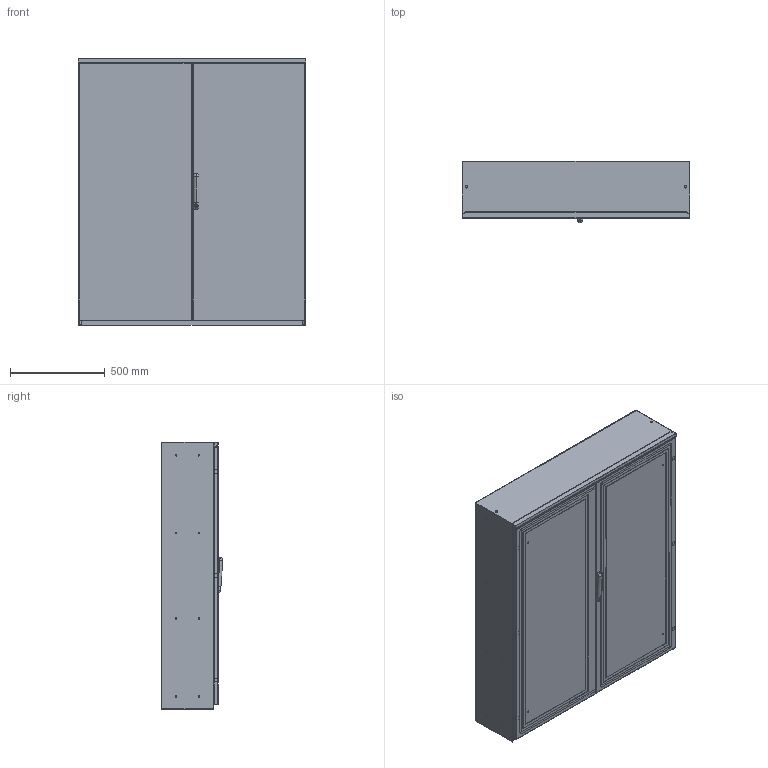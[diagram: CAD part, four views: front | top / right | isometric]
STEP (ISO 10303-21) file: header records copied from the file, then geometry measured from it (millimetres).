
FILE_DESCRIPTION (( 'STEP AP203' ), '1' );
FILE_NAME ('ECOMP12-1430X.STEP', '2021-03-16T07:39:07', ( '' ), ( '' ), 'SwSTEP 2.0', 'SolidWorks 2019', '' );
FILE_SCHEMA (( 'CONFIG_CONTROL_DESIGN' ));
Length unit declared in the file: millimetre
Products named in the file (11): AR_ECOMP_inox_assieme_maniglia; AR_ECOMP_inox_struttura_1200x1400x0300; AR_ECOMP_inox_piastra_interna_1200x1200; AR_ECOMP_inox_maniglia; AR_ECOMP_inox_inserto_maniglia_Doppia_aletta; AR_ECOMP_inox_montaggio_porta_IB_1.5_1200x1400_ANT_DX; ECOMP12-1430X; AR_ECOMP_inox_tegolino_0600x0100; AR_ECOMP_inox_tegolino_0600x0050; AR_ECOMP_inox_Porta_CB_1.5_1200x1400_ANT_DX; AR_ECOMP_inox_Porta_IB_1.5_1200x1400_ANT
Assembly tree (12 placements, depth 4):
  ECOMP12-1430X
    AR_ECOMP_inox_struttura_1200x1400x0300
    AR_ECOMP_inox_montaggio_porta_IB_1.5_1200x1400_ANT_DX
      AR_ECOMP_inox_Porta_IB_1.5_1200x1400_ANT
      AR_ECOMP_inox_assieme_maniglia
        AR_ECOMP_inox_maniglia
        AR_ECOMP_inox_inserto_maniglia_Doppia_aletta
    AR_ECOMP_inox_Porta_CB_1.5_1200x1400_ANT_DX
    AR_ECOMP_inox_piastra_interna_1200x1200
    AR_ECOMP_inox_tegolino_0600x0050  x2
    AR_ECOMP_inox_tegolino_0600x0100  x2
Bounding box: 1200 x 323.98 x 1411.48 mm (x, y, z)
Volume: 12633238.9 mm3; surface area: 14862477.4 mm2
Topology: 10 solids, 10 shells, 1952 faces, 5243 edges, 3374 vertices
Faces by surface type: cylinder 1001, plane 902, torus 16, bspline 15, sphere 14, cone 4
Entity records: 61731 total; most frequent: CARTESIAN_POINT 11872, DIRECTION 10450, ORIENTED_EDGE 9866, EDGE_CURVE 4933, AXIS2_PLACEMENT_3D 3777, VERTEX_POINT 3214, VECTOR 2896, LINE 2896
